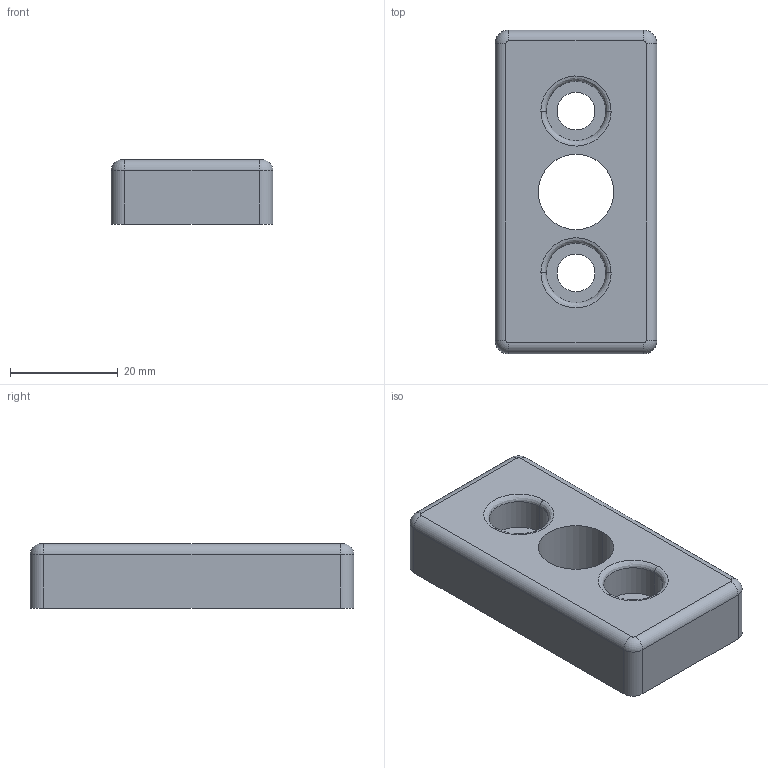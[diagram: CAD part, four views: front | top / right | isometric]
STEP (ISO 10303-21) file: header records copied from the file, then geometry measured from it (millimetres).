
FILE_DESCRIPTION (( 'STEP AP203' ), '1' );
FILE_NAME ('0106FP6030M16.STEP', '2024-03-15T09:57:04', ( 'Windows-Benutzer' ), ( '' ), 'SwSTEP 2.0', 'SolidWorks 2023', '' );
FILE_SCHEMA (( 'CONFIG_CONTROL_DESIGN' ));
Length unit declared in the file: millimetre
Products named in the file (1): 0106FP6030M16
Bounding box: 30 x 60 x 12 mm (x, y, z)
Volume: 14380.2 mm3; surface area: 8696.1 mm2
Topology: 1 solids, 1 shells, 116 faces, 300 edges, 196 vertices
Faces by surface type: cylinder 64, plane 44, bspline 4, torus 4
Entity records: 3717 total; most frequent: CARTESIAN_POINT 685, DIRECTION 658, ORIENTED_EDGE 600, EDGE_CURVE 300, AXIS2_PLACEMENT_3D 249, VERTEX_POINT 196, LINE 160, VECTOR 160
